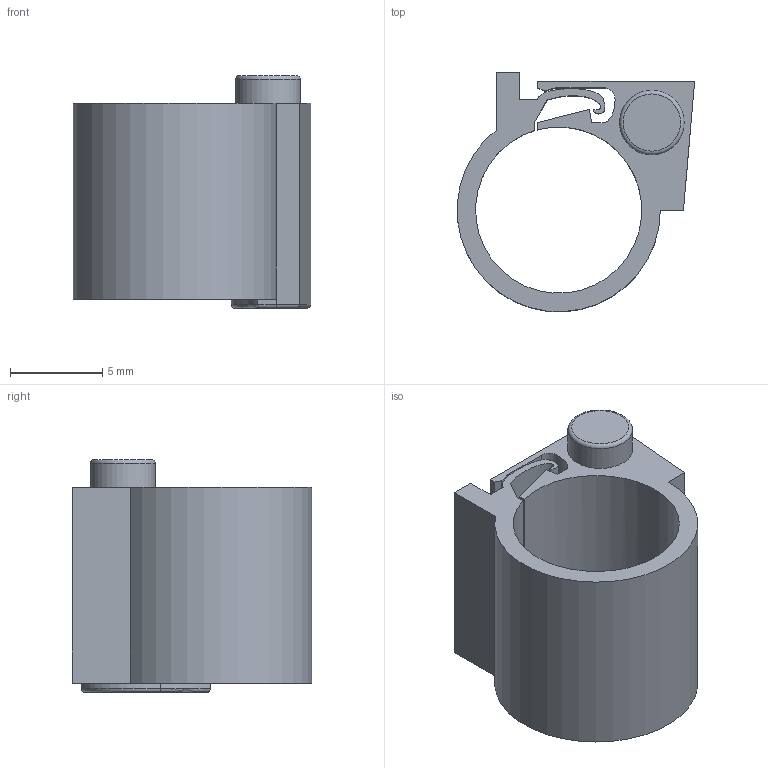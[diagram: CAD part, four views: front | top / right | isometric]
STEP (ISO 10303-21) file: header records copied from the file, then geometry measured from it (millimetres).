
FILE_DESCRIPTION(/* description */ ('Alibre Inc.'),/* implementation_level */ '2;1');
FILE_NAME(/* name */ 'export0',/* time_stamp */ '2013-07-17T10:29:14-06:00',/* author */ (''),/* organization */ (''),/* preprocessor_version */ 'ST-DEVELOPER v14',/* originating_system */ 'Alibre',/* authorisation */ '');
FILE_SCHEMA (('ALIBRE_SCHEMA','CONFIG_CONTROL_DESIGN'));
Length unit declared in the file: centimetre
Products named in the file (1): ID_1
Bounding box: 12.85 x 12.97 x 12.6 mm (x, y, z)
Volume: 640.4 mm3; surface area: 1157 mm2
Topology: 1 solids, 1 shells, 39 faces, 100 edges, 64 vertices
Faces by surface type: plane 23, cylinder 10, torus 3, extrusion 2, bspline 1
Full cylindrical faces by diameter (mm): 3.5 x1
Entity records: 3684 total; most frequent: CARTESIAN_POINT 661, CONSTRAINTPAIRUV 345, DIRECTION 324, REFERENCEDEPENDENTUV 280, VECTOR 209, REFERENCEPOINTUV 199, ORIENTED_EDGE 196, LINE 138
